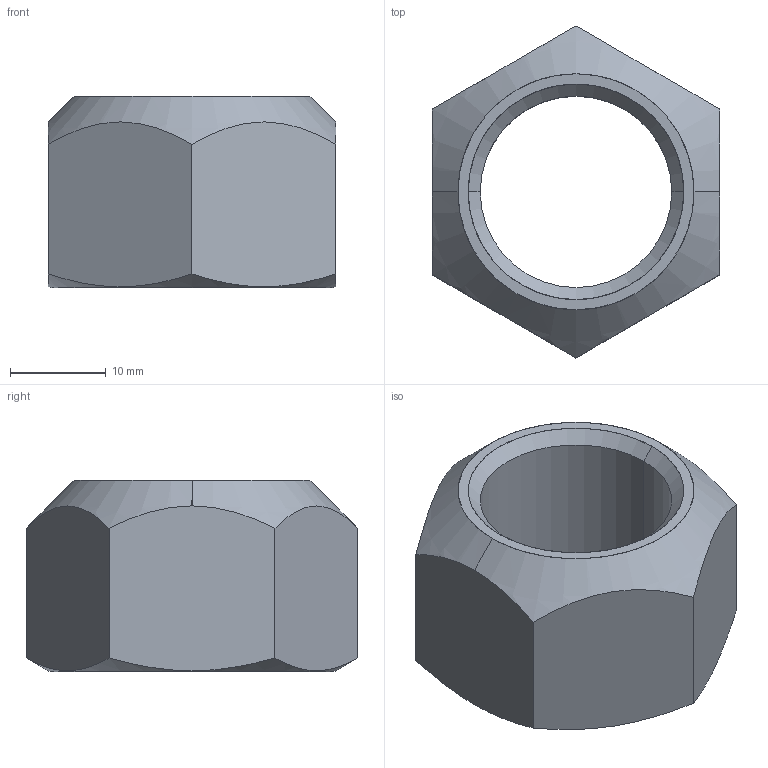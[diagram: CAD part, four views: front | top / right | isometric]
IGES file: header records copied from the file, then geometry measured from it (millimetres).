
Start section: SolidWorks IGES file using analytic representation for surfaces
Global section: file name: C:\Users\liam_\OneDrive\Documents\WORK\Work for WixRoyd\Job Files\J-00021 - Matt Davis CAD Checking\04. CAD Drawings\automotion20190729\P0308.ZP_v2\P0308.ZP_v2_20190913_IGES\P0308.200-ZP.igs; native system: SolidWorks 2017; preprocessor: SolidWorks 2017; author: liam_; date: 190913.214334; units: millimetre
Bounding box: 30 x 34.64 x 20 mm (x, y, z)
Surface area: 3897.1 mm2 (no closed solid volume)
Topology: 0 solids, 0 shells, 18 faces, 400 edges, 400 vertices
Faces by surface type: revolution 10, bspline 8
